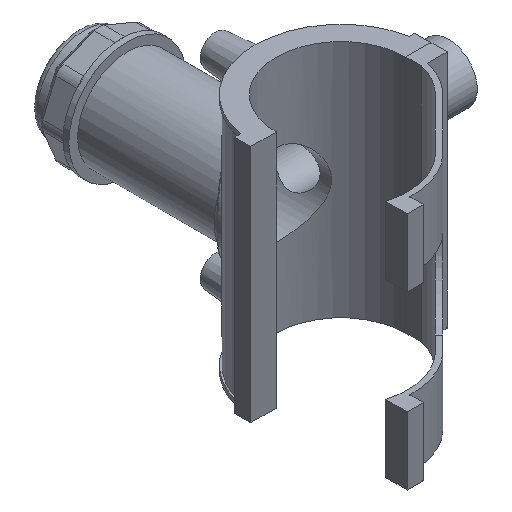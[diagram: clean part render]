
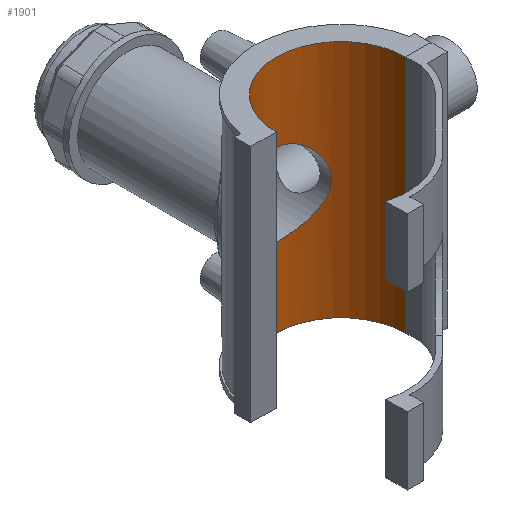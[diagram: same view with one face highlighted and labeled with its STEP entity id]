
A CAD part, isometric view. The second image highlights one B-rep face of the part: STEP entity #1901.
In plain terms, the highlighted cylindrical face has radius 32.05 mm (diameter 64.1 mm), a partial arc.
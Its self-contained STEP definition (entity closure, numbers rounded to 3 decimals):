
#49=FACE_BOUND('',#624,.T.);
#50=B_SPLINE_CURVE_WITH_KNOTS('',3,(#2728,#2729,#2730,#2731,#2732,#2733,
#2734,#2735,#2736,#2737,#2738,#2739,#2740,#2741,#2742,#2743,#2744,#2745,
#2746,#2747,#2748,#2749,#2750,#2751,#2752,#2753,#2754,#2755,#2756,#2757,
#2758,#2759,#2760,#2761,#2762,#2763,#2764,#2765,#2766,#2767,#2768,#2769,
#2770,#2771,#2772,#2773,#2774,#2775,#2776,#2777),.UNSPECIFIED.,.F.,.F.,
(4,2,2,2,2,2,2,2,2,2,2,2,2,2,2,2,2,2,2,2,2,2,2,2,4),(0.,0.396,
0.791,1.187,1.582,1.974,2.367,
2.759,3.151,3.544,3.936,4.328,
4.721,5.116,5.512,5.907,6.303,
6.698,7.094,7.489,7.885,8.277,
8.669,9.062,9.454),.UNSPECIFIED.);
#51=B_SPLINE_CURVE_WITH_KNOTS('',3,(#2778,#2779,#2780,#2781,#2782,#2783,
#2784,#2785,#2786,#2787,#2788,#2789,#2790,#2791,#2792,#2793,#2794,#2795),
 .UNSPECIFIED.,.F.,.F.,(4,2,2,2,2,2,2,2,4),(9.454,9.846,
10.239,10.631,11.023,11.419,11.814,
12.21,12.605),.UNSPECIFIED.);
#173=LINE('',#3702,#330);
#174=LINE('',#3706,#331);
#330=VECTOR('',#2560,10.);
#331=VECTOR('',#2563,10.);
#414=CYLINDRICAL_SURFACE('',#2109,32.05);
#503=FACE_OUTER_BOUND('',#623,.T.);
#623=EDGE_LOOP('',(#1608,#1609,#1610,#1611));
#624=EDGE_LOOP('',(#1612,#1613));
#721=CIRCLE('',#2106,32.05);
#722=CIRCLE('',#2108,32.05);
#741=VERTEX_POINT('',#2725);
#742=VERTEX_POINT('',#2727);
#871=VERTEX_POINT('',#3696);
#873=VERTEX_POINT('',#3700);
#874=VERTEX_POINT('',#3704);
#875=VERTEX_POINT('',#3705);
#925=EDGE_CURVE('',#742,#741,#50,.T.);
#926=EDGE_CURVE('',#741,#742,#51,.T.);
#1122=EDGE_CURVE('',#871,#873,#173,.T.);
#1123=EDGE_CURVE('',#874,#875,#174,.T.);
#1129=EDGE_CURVE('',#871,#875,#721,.T.);
#1130=EDGE_CURVE('',#874,#873,#722,.T.);
#1608=ORIENTED_EDGE('',*,*,#1123,.T.);
#1609=ORIENTED_EDGE('',*,*,#1129,.F.);
#1610=ORIENTED_EDGE('',*,*,#1122,.T.);
#1611=ORIENTED_EDGE('',*,*,#1130,.F.);
#1612=ORIENTED_EDGE('',*,*,#925,.T.);
#1613=ORIENTED_EDGE('',*,*,#926,.T.);
#1901=ADVANCED_FACE('',(#503,#49),#414,.F.);
#2106=AXIS2_PLACEMENT_3D('',#3715,#2571,#2572);
#2108=AXIS2_PLACEMENT_3D('',#3717,#2575,#2576);
#2109=AXIS2_PLACEMENT_3D('',#3720,#2579,#2580);
#2560=DIRECTION('',(0.,0.,-1.));
#2563=DIRECTION('',(0.,0.,1.));
#2571=DIRECTION('center_axis',(0.,0.,-1.));
#2572=DIRECTION('ref_axis',(-1.,0.,0.));
#2575=DIRECTION('center_axis',(0.,0.,1.));
#2576=DIRECTION('ref_axis',(-1.,0.,0.));
#2579=DIRECTION('center_axis',(0.,0.,1.));
#2580=DIRECTION('ref_axis',(-1.,0.,0.));
#2725=CARTESIAN_POINT('',(0.,32.05,-20.192));
#2727=CARTESIAN_POINT('',(-20.192,24.89,0.));
#2728=CARTESIAN_POINT('Ctrl Pts',(-20.192,24.89,0.));
#2729=CARTESIAN_POINT('Ctrl Pts',(-20.192,24.89,1.318));
#2730=CARTESIAN_POINT('Ctrl Pts',(-20.06,24.998,2.662));
#2731=CARTESIAN_POINT('Ctrl Pts',(-19.529,25.415,5.303));
#2732=CARTESIAN_POINT('Ctrl Pts',(-19.129,25.723,6.6));
#2733=CARTESIAN_POINT('Ctrl Pts',(-18.091,26.464,9.067));
#2734=CARTESIAN_POINT('Ctrl Pts',(-17.451,26.896,10.241));
#2735=CARTESIAN_POINT('Ctrl Pts',(-15.984,27.793,12.406));
#2736=CARTESIAN_POINT('Ctrl Pts',(-15.157,28.257,13.398));
#2737=CARTESIAN_POINT('Ctrl Pts',(-13.405,29.128,15.15));
#2738=CARTESIAN_POINT('Ctrl Pts',(-12.417,29.57,15.976));
#2739=CARTESIAN_POINT('Ctrl Pts',(-10.251,30.388,17.445));
#2740=CARTESIAN_POINT('Ctrl Pts',(-9.073,30.766,18.088));
#2741=CARTESIAN_POINT('Ctrl Pts',(-6.595,31.39,19.132));
#2742=CARTESIAN_POINT('Ctrl Pts',(-5.292,31.638,19.532));
#2743=CARTESIAN_POINT('Ctrl Pts',(-2.648,31.968,20.062));
#2744=CARTESIAN_POINT('Ctrl Pts',(-1.308,32.05,20.192));
#2745=CARTESIAN_POINT('Ctrl Pts',(1.308,32.05,20.192));
#2746=CARTESIAN_POINT('Ctrl Pts',(2.648,31.968,20.062));
#2747=CARTESIAN_POINT('Ctrl Pts',(5.292,31.638,19.532));
#2748=CARTESIAN_POINT('Ctrl Pts',(6.595,31.39,19.132));
#2749=CARTESIAN_POINT('Ctrl Pts',(9.073,30.766,18.088));
#2750=CARTESIAN_POINT('Ctrl Pts',(10.251,30.388,17.445));
#2751=CARTESIAN_POINT('Ctrl Pts',(12.417,29.57,15.976));
#2752=CARTESIAN_POINT('Ctrl Pts',(13.405,29.128,15.15));
#2753=CARTESIAN_POINT('Ctrl Pts',(15.157,28.257,13.398));
#2754=CARTESIAN_POINT('Ctrl Pts',(15.984,27.793,12.406));
#2755=CARTESIAN_POINT('Ctrl Pts',(17.451,26.896,10.241));
#2756=CARTESIAN_POINT('Ctrl Pts',(18.091,26.464,9.067));
#2757=CARTESIAN_POINT('Ctrl Pts',(19.129,25.723,6.6));
#2758=CARTESIAN_POINT('Ctrl Pts',(19.529,25.415,5.303));
#2759=CARTESIAN_POINT('Ctrl Pts',(20.06,24.998,2.662));
#2760=CARTESIAN_POINT('Ctrl Pts',(20.192,24.89,1.318));
#2761=CARTESIAN_POINT('Ctrl Pts',(20.192,24.89,-1.318));
#2762=CARTESIAN_POINT('Ctrl Pts',(20.06,24.998,-2.662));
#2763=CARTESIAN_POINT('Ctrl Pts',(19.529,25.415,-5.303));
#2764=CARTESIAN_POINT('Ctrl Pts',(19.129,25.723,-6.6));
#2765=CARTESIAN_POINT('Ctrl Pts',(18.091,26.464,-9.067));
#2766=CARTESIAN_POINT('Ctrl Pts',(17.451,26.896,-10.241));
#2767=CARTESIAN_POINT('Ctrl Pts',(15.984,27.793,-12.406));
#2768=CARTESIAN_POINT('Ctrl Pts',(15.157,28.257,-13.398));
#2769=CARTESIAN_POINT('Ctrl Pts',(13.405,29.128,-15.15));
#2770=CARTESIAN_POINT('Ctrl Pts',(12.417,29.57,-15.976));
#2771=CARTESIAN_POINT('Ctrl Pts',(10.251,30.388,-17.445));
#2772=CARTESIAN_POINT('Ctrl Pts',(9.073,30.766,-18.088));
#2773=CARTESIAN_POINT('Ctrl Pts',(6.595,31.39,-19.132));
#2774=CARTESIAN_POINT('Ctrl Pts',(5.292,31.638,-19.532));
#2775=CARTESIAN_POINT('Ctrl Pts',(2.648,31.968,-20.062));
#2776=CARTESIAN_POINT('Ctrl Pts',(1.308,32.05,-20.192));
#2777=CARTESIAN_POINT('Ctrl Pts',(0.,32.05,-20.192));
#2778=CARTESIAN_POINT('Ctrl Pts',(0.,32.05,-20.192));
#2779=CARTESIAN_POINT('Ctrl Pts',(-1.308,32.05,-20.192));
#2780=CARTESIAN_POINT('Ctrl Pts',(-2.648,31.968,-20.062));
#2781=CARTESIAN_POINT('Ctrl Pts',(-5.292,31.638,-19.532));
#2782=CARTESIAN_POINT('Ctrl Pts',(-6.595,31.39,-19.132));
#2783=CARTESIAN_POINT('Ctrl Pts',(-9.073,30.766,-18.088));
#2784=CARTESIAN_POINT('Ctrl Pts',(-10.251,30.388,-17.445));
#2785=CARTESIAN_POINT('Ctrl Pts',(-12.417,29.57,-15.976));
#2786=CARTESIAN_POINT('Ctrl Pts',(-13.405,29.128,-15.15));
#2787=CARTESIAN_POINT('Ctrl Pts',(-15.157,28.257,-13.398));
#2788=CARTESIAN_POINT('Ctrl Pts',(-15.984,27.793,-12.406));
#2789=CARTESIAN_POINT('Ctrl Pts',(-17.451,26.896,-10.241));
#2790=CARTESIAN_POINT('Ctrl Pts',(-18.091,26.464,-9.067));
#2791=CARTESIAN_POINT('Ctrl Pts',(-19.129,25.723,-6.6));
#2792=CARTESIAN_POINT('Ctrl Pts',(-19.529,25.415,-5.303));
#2793=CARTESIAN_POINT('Ctrl Pts',(-20.06,24.998,-2.662));
#2794=CARTESIAN_POINT('Ctrl Pts',(-20.192,24.89,-1.318));
#2795=CARTESIAN_POINT('Ctrl Pts',(-20.192,24.89,0.));
#3696=CARTESIAN_POINT('',(-32.05,0.05,59.055));
#3700=CARTESIAN_POINT('',(-32.05,0.05,-59.055));
#3702=CARTESIAN_POINT('',(-32.05,0.05,0.));
#3704=CARTESIAN_POINT('',(32.05,0.05,-59.055));
#3705=CARTESIAN_POINT('',(32.05,0.05,59.055));
#3706=CARTESIAN_POINT('',(32.05,0.05,0.));
#3715=CARTESIAN_POINT('Origin',(0.,0.,59.055));
#3717=CARTESIAN_POINT('Origin',(0.,0.,-59.055));
#3720=CARTESIAN_POINT('Origin',(0.,0.,0.));
